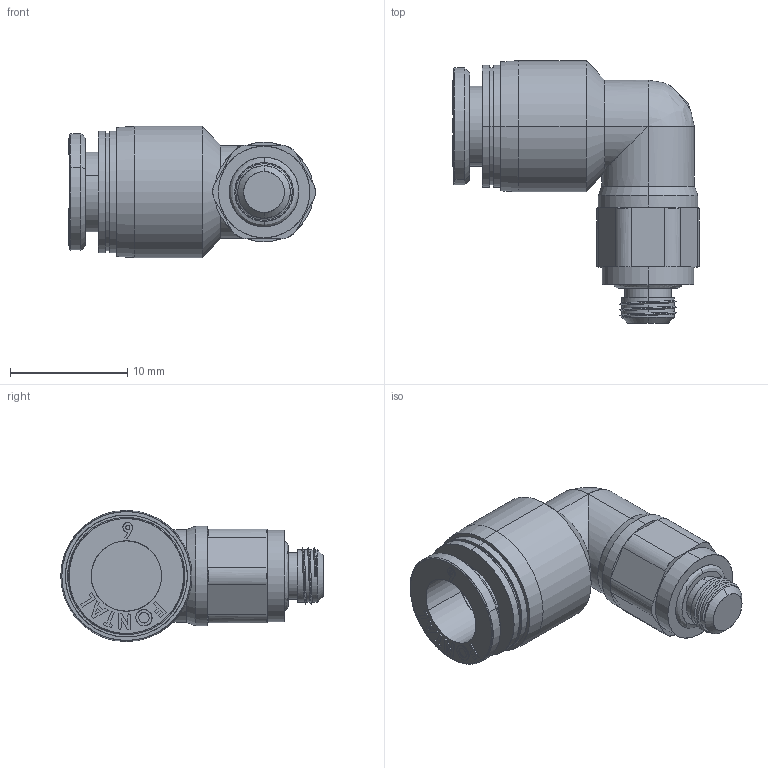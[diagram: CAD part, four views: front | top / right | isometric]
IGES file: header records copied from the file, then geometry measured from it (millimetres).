
Start section: SolidWorks IGES file using analytic representation for surfaces
Global section: file name: D:\Custom\3D繪製\ADDITIONAL\FPL\FPL6-M5.IGS,1; native system: 5HSolidWorks 2014; preprocessor: SolidWorks 2014; author: Chieh_Lu; date: 160115.050435; units: millimetre
Bounding box: 21.07 x 22.4 x 11.2 mm (x, y, z)
Surface area: 1606.6 mm2 (no closed solid volume)
Topology: 0 solids, 0 shells, 176 faces, 2102 edges, 2102 vertices
Faces by surface type: bspline 113, revolution 63
